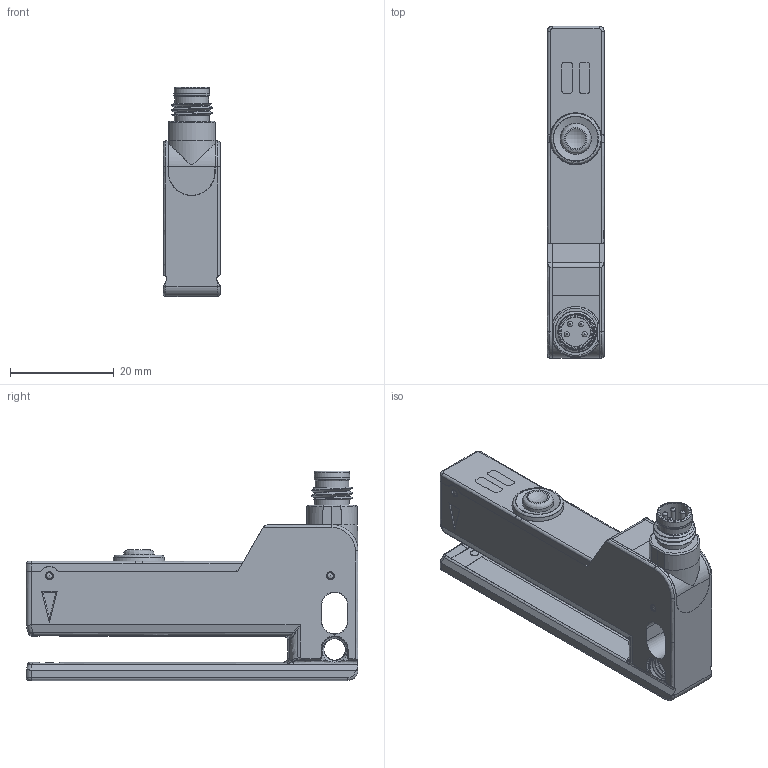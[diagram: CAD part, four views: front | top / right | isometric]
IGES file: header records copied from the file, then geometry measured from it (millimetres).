
Global section: file name: 153-01165_FGL 5 IK Stecker; native system: Autodesk Inventor 2014; preprocessor: unknown; author: ss263; date: 20141202.115330; units: millimetre
Bounding box: 11.1 x 64 x 40.48 mm (x, y, z)
Surface area: 8886.9 mm2 (no closed solid volume)
Topology: 0 solids, 0 shells, 316 faces, 4918 edges, 4901 vertices
Faces by surface type: revolution 160, plane 108, bspline 48
